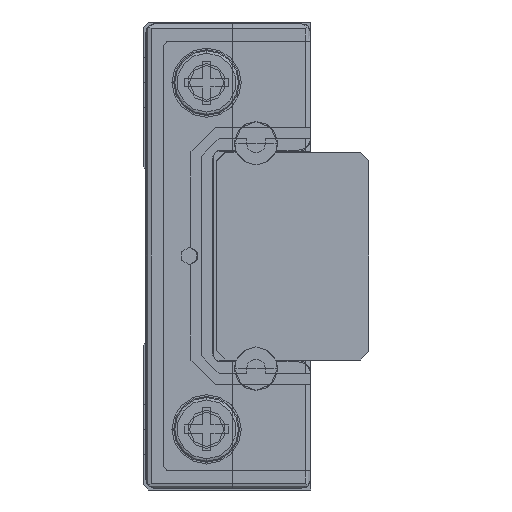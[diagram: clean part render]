
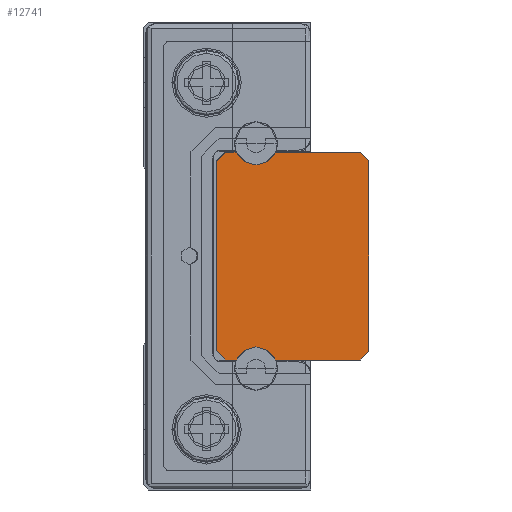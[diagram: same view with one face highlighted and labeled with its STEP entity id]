
A CAD part, left-side view. The second image highlights one B-rep face of the part: STEP entity #12741.
In plain terms, the highlighted planar face has unit normal (-1, 0, 0) as drawn and (0, 0, 1) by its records, which use the part's own axes.
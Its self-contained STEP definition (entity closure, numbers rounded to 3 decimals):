
#6=CARTESIAN_POINT('',(-6.5,6.5,500.));
#7=DIRECTION('',(0.,0.,-1.));
#8=DIRECTION('',(0.4,0.917,0.));
#9=AXIS2_PLACEMENT_3D('',#6,#7,#8);
#455=DIRECTION('',(-1.,0.,0.));
#456=VECTOR('',#455,10.96);
#457=CARTESIAN_POINT('',(5.48,8.8,500.));
#458=LINE('',#457,#456);
#1317=DIRECTION('',(1.,0.,0.));
#1318=VECTOR('',#1317,11.);
#1319=CARTESIAN_POINT('',(-5.5,0.,500.));
#1320=LINE('',#1319,#1318);
#3835=DIRECTION('',(0.,1.,0.));
#3836=VECTOR('',#3835,4.854);
#3837=CARTESIAN_POINT('',(6.,0.5,500.));
#3838=LINE('',#3837,#3836);
#3844=CARTESIAN_POINT('',(6.5,6.5,500.));
#3845=DIRECTION('',(0.,0.,-1.));
#3846=DIRECTION('',(-0.4,-0.917,0.));
#3847=AXIS2_PLACEMENT_3D('',#3844,#3845,#3846);
#3853=DIRECTION('',(0.707,0.707,0.));
#3854=VECTOR('',#3853,0.735);
#3855=CARTESIAN_POINT('',(-6.,8.28,500.));
#3856=LINE('',#3855,#3854);
#3857=DIRECTION('',(0.707,-0.707,0.));
#3858=VECTOR('',#3857,0.735);
#3859=CARTESIAN_POINT('',(5.48,8.8,500.));
#3860=LINE('',#3859,#3858);
#3861=DIRECTION('',(-0.707,-0.707,0.));
#3862=VECTOR('',#3861,0.707);
#3863=CARTESIAN_POINT('',(6.,0.5,500.));
#3864=LINE('',#3863,#3862);
#3865=DIRECTION('',(-0.707,0.707,0.));
#3866=VECTOR('',#3865,0.707);
#3867=CARTESIAN_POINT('',(-5.5,0.,500.));
#3868=LINE('',#3867,#3866);
#3873=DIRECTION('',(0.,-1.,0.));
#3874=VECTOR('',#3873,4.854);
#3875=CARTESIAN_POINT('',(-6.,5.354,500.));
#3876=LINE('',#3875,#3874);
#3885=DIRECTION('',(0.,-1.,0.));
#3886=VECTOR('',#3885,0.634);
#3887=CARTESIAN_POINT('',(-6.,8.28,500.));
#3888=LINE('',#3887,#3886);
#3905=DIRECTION('',(0.,1.,0.));
#3906=VECTOR('',#3905,0.634);
#3907=CARTESIAN_POINT('',(6.,7.646,500.));
#3908=LINE('',#3907,#3906);
#6069=CARTESIAN_POINT('',(-6.,5.354,500.));
#6070=CARTESIAN_POINT('',(-6.,0.5,500.));
#6071=VERTEX_POINT('',#6069);
#6072=VERTEX_POINT('',#6070);
#6073=CARTESIAN_POINT('',(-6.,8.28,500.));
#6074=CARTESIAN_POINT('',(-6.,7.646,500.));
#6075=VERTEX_POINT('',#6073);
#6076=VERTEX_POINT('',#6074);
#6077=CARTESIAN_POINT('',(-5.48,8.8,500.));
#6078=VERTEX_POINT('',#6077);
#6079=CARTESIAN_POINT('',(5.48,8.8,500.));
#6080=VERTEX_POINT('',#6079);
#6081=CARTESIAN_POINT('',(6.,8.28,500.));
#6082=VERTEX_POINT('',#6081);
#6083=CARTESIAN_POINT('',(6.,7.646,500.));
#6084=VERTEX_POINT('',#6083);
#6085=CARTESIAN_POINT('',(6.,0.5,500.));
#6086=CARTESIAN_POINT('',(6.,5.354,500.));
#6087=VERTEX_POINT('',#6085);
#6088=VERTEX_POINT('',#6086);
#6089=CARTESIAN_POINT('',(5.5,0.,500.));
#6090=VERTEX_POINT('',#6089);
#6091=CARTESIAN_POINT('',(-5.5,0.,500.));
#6092=VERTEX_POINT('',#6091);
#12716=CARTESIAN_POINT('',(6.5,6.5,500.));
#12717=DIRECTION('',(0.,0.,1.));
#12718=DIRECTION('',(1.,0.,0.));
#12719=AXIS2_PLACEMENT_3D('',#12716,#12717,#12718);
#12720=PLANE('',#12719);
#12722=ORIENTED_EDGE('',*,*,#12721,.F.);
#12723=ORIENTED_EDGE('',*,*,#7726,.F.);
#12725=ORIENTED_EDGE('',*,*,#12724,.F.);
#12727=ORIENTED_EDGE('',*,*,#12726,.T.);
#12728=ORIENTED_EDGE('',*,*,#7774,.F.);
#12730=ORIENTED_EDGE('',*,*,#12729,.T.);
#12732=ORIENTED_EDGE('',*,*,#12731,.F.);
#12733=ORIENTED_EDGE('',*,*,#12709,.F.);
#12734=ORIENTED_EDGE('',*,*,#12697,.F.);
#12735=ORIENTED_EDGE('',*,*,#12683,.T.);
#12736=ORIENTED_EDGE('',*,*,#8369,.F.);
#12738=ORIENTED_EDGE('',*,*,#12737,.T.);
#12739=EDGE_LOOP('',(#12722,#12723,#12725,#12727,#12728,#12730,#12732,#12733,
#12734,#12735,#12736,#12738));
#12740=FACE_OUTER_BOUND('',#12739,.F.);
#12741=ADVANCED_FACE('',(#12740),#12720,.T.);
#10=CIRCLE('',#9,1.25);
#3848=CIRCLE('',#3847,1.25);
#7726=EDGE_CURVE('',#6076,#6071,#10,.T.);
#7774=EDGE_CURVE('',#6080,#6078,#458,.T.);
#8369=EDGE_CURVE('',#6092,#6090,#1320,.T.);
#12683=EDGE_CURVE('',#6087,#6090,#3864,.T.);
#12697=EDGE_CURVE('',#6087,#6088,#3838,.T.);
#12709=EDGE_CURVE('',#6088,#6084,#3848,.T.);
#12721=EDGE_CURVE('',#6071,#6072,#3876,.T.);
#12724=EDGE_CURVE('',#6075,#6076,#3888,.T.);
#12726=EDGE_CURVE('',#6075,#6078,#3856,.T.);
#12729=EDGE_CURVE('',#6080,#6082,#3860,.T.);
#12731=EDGE_CURVE('',#6084,#6082,#3908,.T.);
#12737=EDGE_CURVE('',#6092,#6072,#3868,.T.);
